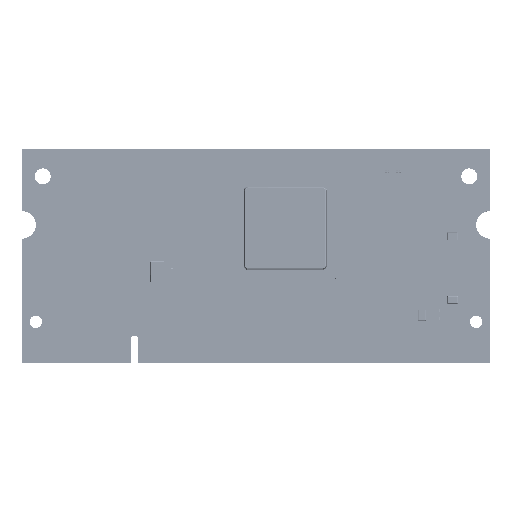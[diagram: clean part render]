
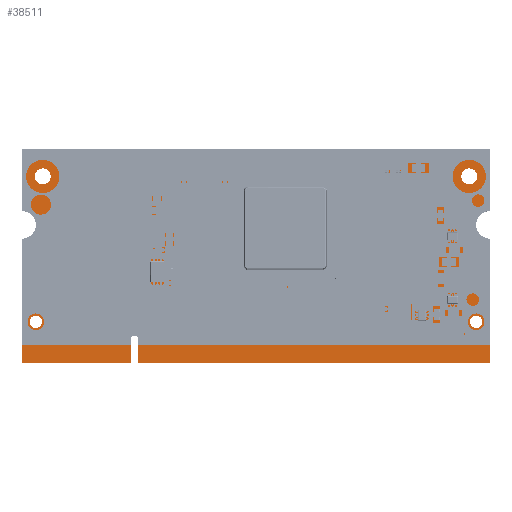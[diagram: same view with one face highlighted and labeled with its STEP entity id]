
A CAD part, top view. The second image highlights one B-rep face of the part: STEP entity #38511.
In plain terms, the highlighted planar face has unit normal (0, 0, 1).
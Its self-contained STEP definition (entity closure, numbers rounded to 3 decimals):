
#38511=ADVANCED_FACE('',(#61785,#61786,#61787,#61788,#61789),#61790,.T.);
#61785=FACE_OUTER_BOUND('',#97428,.T.);
#61786=FACE_BOUND('',#97429,.T.);
#61787=FACE_BOUND('',#97430,.T.);
#61788=FACE_BOUND('',#97431,.T.);
#61789=FACE_BOUND('',#97432,.T.);
#61790=PLANE('',#97433);
#97428=EDGE_LOOP('',(#144770,#144771,#144772,#144773,#144774,#144775,#144776,#144777,#144778,#144779,#144780,#144781,#144782,#144783,#144784));
#97429=EDGE_LOOP('',(#144785,#144786));
#97430=EDGE_LOOP('',(#144787,#144788));
#97431=EDGE_LOOP('',(#144789,#144790));
#97432=EDGE_LOOP('',(#144791,#144792));
#97433=AXIS2_PLACEMENT_3D('',#144793,#144794,#144795);
#144770=ORIENTED_EDGE('',*,*,#171218,.T.);
#144771=ORIENTED_EDGE('',*,*,#171219,.T.);
#144772=ORIENTED_EDGE('',*,*,#171220,.T.);
#144773=ORIENTED_EDGE('',*,*,#171221,.T.);
#144774=ORIENTED_EDGE('',*,*,#171222,.T.);
#144775=ORIENTED_EDGE('',*,*,#171223,.T.);
#144776=ORIENTED_EDGE('',*,*,#171224,.T.);
#144777=ORIENTED_EDGE('',*,*,#171225,.T.);
#144778=ORIENTED_EDGE('',*,*,#171226,.T.);
#144779=ORIENTED_EDGE('',*,*,#171227,.T.);
#144780=ORIENTED_EDGE('',*,*,#171228,.T.);
#144781=ORIENTED_EDGE('',*,*,#171229,.T.);
#144782=ORIENTED_EDGE('',*,*,#171230,.T.);
#144783=ORIENTED_EDGE('',*,*,#171231,.T.);
#144784=ORIENTED_EDGE('',*,*,#171232,.T.);
#144785=ORIENTED_EDGE('',*,*,#171233,.F.);
#144786=ORIENTED_EDGE('',*,*,#171205,.F.);
#144787=ORIENTED_EDGE('',*,*,#171234,.F.);
#144788=ORIENTED_EDGE('',*,*,#171209,.F.);
#144789=ORIENTED_EDGE('',*,*,#171235,.F.);
#144790=ORIENTED_EDGE('',*,*,#171213,.F.);
#144791=ORIENTED_EDGE('',*,*,#171236,.F.);
#144792=ORIENTED_EDGE('',*,*,#171217,.F.);
#144793=CARTESIAN_POINT('',(33.165,15.125,0.935));
#144794=DIRECTION('',(0.0,0.0,1.0));
#144795=DIRECTION('',(1.0,0.0,0.0));
#171205=EDGE_CURVE('',#208360,#208356,#208362,.T.);
#171209=EDGE_CURVE('',#208368,#208364,#208370,.T.);
#171213=EDGE_CURVE('',#208376,#208372,#208378,.T.);
#171217=EDGE_CURVE('',#208384,#208380,#208386,.T.);
#171218=EDGE_CURVE('',#208387,#208388,#208389,.T.);
#171219=EDGE_CURVE('',#208388,#208390,#208391,.T.);
#171220=EDGE_CURVE('',#208390,#208392,#208393,.T.);
#171221=EDGE_CURVE('',#208392,#208394,#208395,.T.);
#171222=EDGE_CURVE('',#208394,#208396,#208397,.T.);
#171223=EDGE_CURVE('',#208396,#208398,#208399,.T.);
#171224=EDGE_CURVE('',#208398,#208400,#208401,.T.);
#171225=EDGE_CURVE('',#208400,#208402,#208403,.T.);
#171226=EDGE_CURVE('',#208402,#208404,#208405,.T.);
#171227=EDGE_CURVE('',#208404,#208406,#208407,.T.);
#171228=EDGE_CURVE('',#208406,#208408,#208409,.T.);
#171229=EDGE_CURVE('',#208408,#208410,#208411,.T.);
#171230=EDGE_CURVE('',#208410,#208412,#208413,.T.);
#171231=EDGE_CURVE('',#208412,#208414,#208415,.T.);
#171232=EDGE_CURVE('',#208414,#208387,#208416,.T.);
#171233=EDGE_CURVE('',#208356,#208360,#208417,.T.);
#171234=EDGE_CURVE('',#208364,#208368,#208418,.T.);
#171235=EDGE_CURVE('',#208372,#208376,#208419,.T.);
#171236=EDGE_CURVE('',#208380,#208384,#208420,.T.);
#208356=VERTEX_POINT('',#253149);
#208360=VERTEX_POINT('',#253154);
#208362=CIRCLE('',#253157,0.9);
#208364=VERTEX_POINT('',#253159);
#208368=VERTEX_POINT('',#253164);
#208370=CIRCLE('',#253167,0.9);
#208372=VERTEX_POINT('',#253169);
#208376=VERTEX_POINT('',#253174);
#208378=CIRCLE('',#253177,1.15);
#208380=VERTEX_POINT('',#253179);
#208384=VERTEX_POINT('',#253184);
#208386=CIRCLE('',#253187,1.15);
#208387=VERTEX_POINT('',#253188);
#208388=VERTEX_POINT('',#253189);
#208389=LINE('',#253190,#253191);
#208390=VERTEX_POINT('',#253192);
#208391=LINE('',#253193,#253194);
#208392=VERTEX_POINT('',#253195);
#208393=CIRCLE('',#253196,2.0);
#208394=VERTEX_POINT('',#253197);
#208395=CIRCLE('',#253198,2.0);
#208396=VERTEX_POINT('',#253199);
#208397=LINE('',#253200,#253201);
#208398=VERTEX_POINT('',#253202);
#208399=LINE('',#253203,#253204);
#208400=VERTEX_POINT('',#253205);
#208401=LINE('',#253206,#253207);
#208402=VERTEX_POINT('',#253208);
#208403=CIRCLE('',#253209,0.5);
#208404=VERTEX_POINT('',#253210);
#208405=CIRCLE('',#253211,0.5);
#208406=VERTEX_POINT('',#253212);
#208407=LINE('',#253213,#253214);
#208408=VERTEX_POINT('',#253215);
#208409=LINE('',#253216,#253217);
#208410=VERTEX_POINT('',#253218);
#208411=LINE('',#253219,#253220);
#208412=VERTEX_POINT('',#253221);
#208413=CIRCLE('',#253222,2.0);
#208414=VERTEX_POINT('',#253223);
#208415=CIRCLE('',#253224,2.0);
#208416=LINE('',#253225,#253226);
#208417=CIRCLE('',#253227,0.9);
#208418=CIRCLE('',#253228,0.9);
#208419=CIRCLE('',#253229,1.15);
#208420=CIRCLE('',#253230,1.15);
#253149=CARTESIAN_POINT('',(1.1,6.0,0.935));
#253154=CARTESIAN_POINT('',(2.9,6.0,0.935));
#253157=AXIS2_PLACEMENT_3D('',#273806,#273807,#273808);
#253159=CARTESIAN_POINT('',(64.7,6.0,0.935));
#253164=CARTESIAN_POINT('',(66.5,6.0,0.935));
#253167=AXIS2_PLACEMENT_3D('',#273814,#273815,#273816);
#253169=CARTESIAN_POINT('',(1.85,27.0,0.935));
#253174=CARTESIAN_POINT('',(4.15,27.0,0.935));
#253177=AXIS2_PLACEMENT_3D('',#273822,#273823,#273824);
#253179=CARTESIAN_POINT('',(63.45,27.0,0.935));
#253184=CARTESIAN_POINT('',(65.75,27.0,0.935));
#253187=AXIS2_PLACEMENT_3D('',#273830,#273831,#273832);
#253188=CARTESIAN_POINT('',(67.6,31.0,0.935));
#253189=CARTESIAN_POINT('',(0.0,31.0,0.935));
#253190=CARTESIAN_POINT('',(33.8,31.0,0.935));
#253191=VECTOR('',#273833,1.0);
#253192=CARTESIAN_POINT('',(0.0,22.0,0.935));
#253193=CARTESIAN_POINT('',(0.0,26.5,0.935));
#253194=VECTOR('',#273834,1.0);
#253195=CARTESIAN_POINT('',(2.0,20.0,0.935));
#253196=AXIS2_PLACEMENT_3D('',#273835,#273836,#273837);
#253197=CARTESIAN_POINT('',(0.,18.0,0.935));
#253198=AXIS2_PLACEMENT_3D('',#273838,#273839,#273840);
#253199=CARTESIAN_POINT('',(0.0,0.0,0.935));
#253200=CARTESIAN_POINT('',(0.,9.0,0.935));
#253201=VECTOR('',#273841,1.0);
#253202=CARTESIAN_POINT('',(15.75,0.0,0.935));
#253203=CARTESIAN_POINT('',(7.875,0.0,0.935));
#253204=VECTOR('',#273842,1.0);
#253205=CARTESIAN_POINT('',(15.75,3.5,0.935));
#253206=CARTESIAN_POINT('',(15.75,1.75,0.935));
#253207=VECTOR('',#273843,1.0);
#253208=CARTESIAN_POINT('',(16.25,4.0,0.935));
#253209=AXIS2_PLACEMENT_3D('',#273844,#273845,#273846);
#253210=CARTESIAN_POINT('',(16.75,3.5,0.935));
#253211=AXIS2_PLACEMENT_3D('',#273847,#273848,#273849);
#253212=CARTESIAN_POINT('',(16.75,0.0,0.935));
#253213=CARTESIAN_POINT('',(16.75,1.75,0.935));
#253214=VECTOR('',#273850,1.0);
#253215=CARTESIAN_POINT('',(67.6,0.0,0.935));
#253216=CARTESIAN_POINT('',(42.175,0.0,0.935));
#253217=VECTOR('',#273851,1.0);
#253218=CARTESIAN_POINT('',(67.6,18.0,0.935));
#253219=CARTESIAN_POINT('',(67.6,9.0,0.935));
#253220=VECTOR('',#273852,1.0);
#253221=CARTESIAN_POINT('',(65.6,20.0,0.935));
#253222=AXIS2_PLACEMENT_3D('',#273853,#273854,#273855);
#253223=CARTESIAN_POINT('',(67.6,22.0,0.935));
#253224=AXIS2_PLACEMENT_3D('',#273856,#273857,#273858);
#253225=CARTESIAN_POINT('',(67.6,26.5,0.935));
#253226=VECTOR('',#273859,1.0);
#253227=AXIS2_PLACEMENT_3D('',#273860,#273861,#273862);
#253228=AXIS2_PLACEMENT_3D('',#273863,#273864,#273865);
#253229=AXIS2_PLACEMENT_3D('',#273866,#273867,#273868);
#253230=AXIS2_PLACEMENT_3D('',#273869,#273870,#273871);
#273806=CARTESIAN_POINT('',(2.0,6.0,0.935));
#273807=DIRECTION('',(0.0,0.0,1.0));
#273808=DIRECTION('',(-1.0,0.0,0.0));
#273814=CARTESIAN_POINT('',(65.6,6.0,0.935));
#273815=DIRECTION('',(0.0,0.0,1.0));
#273816=DIRECTION('',(-1.0,0.0,0.0));
#273822=CARTESIAN_POINT('',(3.0,27.0,0.935));
#273823=DIRECTION('',(0.0,0.0,1.0));
#273824=DIRECTION('',(-1.0,0.0,0.0));
#273830=CARTESIAN_POINT('',(64.6,27.0,0.935));
#273831=DIRECTION('',(0.0,0.0,1.0));
#273832=DIRECTION('',(-1.0,0.0,0.0));
#273833=DIRECTION('',(-1.0,0.0,0.0));
#273834=DIRECTION('',(0.0,-1.0,0.0));
#273835=CARTESIAN_POINT('',(0.0,20.0,0.935));
#273836=DIRECTION('',(0.0,0.0,-1.0));
#273837=DIRECTION('',(0.0,1.0,0.0));
#273838=CARTESIAN_POINT('',(0.0,20.0,0.935));
#273839=DIRECTION('',(0.0,0.0,-1.0));
#273840=DIRECTION('',(1.0,0.0,0.0));
#273841=DIRECTION('',(0.0,-1.0,0.0));
#273842=DIRECTION('',(1.0,0.0,0.0));
#273843=DIRECTION('',(0.0,1.0,0.0));
#273844=CARTESIAN_POINT('',(16.25,3.5,0.935));
#273845=DIRECTION('',(-0.0,0.0,-1.0));
#273846=DIRECTION('',(-1.0,0.0,0.0));
#273847=CARTESIAN_POINT('',(16.25,3.5,0.935));
#273848=DIRECTION('',(0.0,0.0,-1.0));
#273849=DIRECTION('',(0.0,1.0,0.0));
#273850=DIRECTION('',(0.0,-1.0,0.0));
#273851=DIRECTION('',(1.0,0.0,0.0));
#273852=DIRECTION('',(0.0,1.0,0.0));
#273853=CARTESIAN_POINT('',(67.6,20.0,0.935));
#273854=DIRECTION('',(-0.0,-0.0,-1.0));
#273855=DIRECTION('',(0.0,-1.0,0.0));
#273856=CARTESIAN_POINT('',(67.6,20.0,0.935));
#273857=DIRECTION('',(-0.0,0.0,-1.0));
#273858=DIRECTION('',(-1.0,0.0,0.0));
#273859=DIRECTION('',(0.0,1.0,0.0));
#273860=CARTESIAN_POINT('',(2.0,6.0,0.935));
#273861=DIRECTION('',(0.0,0.0,1.0));
#273862=DIRECTION('',(-1.0,0.0,0.0));
#273863=CARTESIAN_POINT('',(65.6,6.0,0.935));
#273864=DIRECTION('',(0.0,0.0,1.0));
#273865=DIRECTION('',(-1.0,0.0,0.0));
#273866=CARTESIAN_POINT('',(3.0,27.0,0.935));
#273867=DIRECTION('',(0.0,0.0,1.0));
#273868=DIRECTION('',(-1.0,0.0,0.0));
#273869=CARTESIAN_POINT('',(64.6,27.0,0.935));
#273870=DIRECTION('',(0.0,0.0,1.0));
#273871=DIRECTION('',(-1.0,0.0,0.0));
